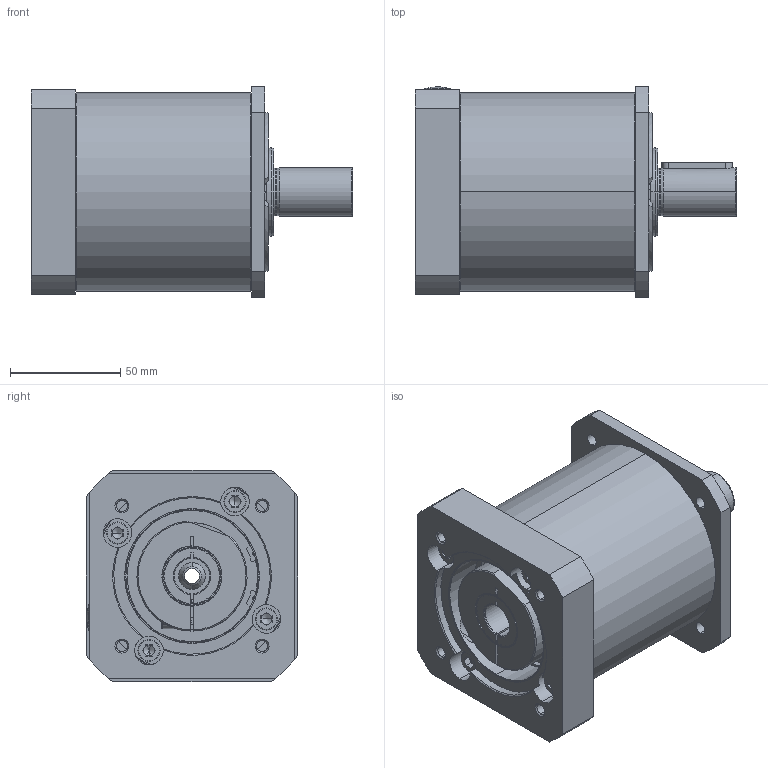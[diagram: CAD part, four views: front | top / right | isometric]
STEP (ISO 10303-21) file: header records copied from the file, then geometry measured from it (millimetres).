
FILE_DESCRIPTION (( 'STEP AP214' ), '1' );
FILE_NAME ('AL-034-0RR-FFF-MMM-S-LL-XXX-AXX-0000.STEP', '2019-10-23T15:37:38', ( '' ), ( '' ), 'SwSTEP 2.0', 'SolidWorks 2019', '' );
FILE_SCHEMA (( 'AUTOMOTIVE_DESIGN' ));
Length unit declared in the file: millimetre
Products named in the file (1): AL-034-0RR-FFF-MMM-S-LL-XXX-AXX-0000
Bounding box: 146 x 96 x 96 mm (x, y, z)
Surface area: 84349.2 mm2 (no closed solid volume)
Topology: 0 solids, 85 shells, 461 faces, 2471 edges, 2058 vertices
Faces by surface type: plane 216, cylinder 127, cone 61, torus 32, bspline 23, sphere 2
Entity records: 37923 total; most frequent: CARTESIAN_POINT 15197, ORIENTED_EDGE 3244, DIRECTION 3050, EDGE_CURVE 2455, VERTEX_POINT 2058, VECTOR 1244, LINE 1244, AXIS2_PLACEMENT_3D 903
